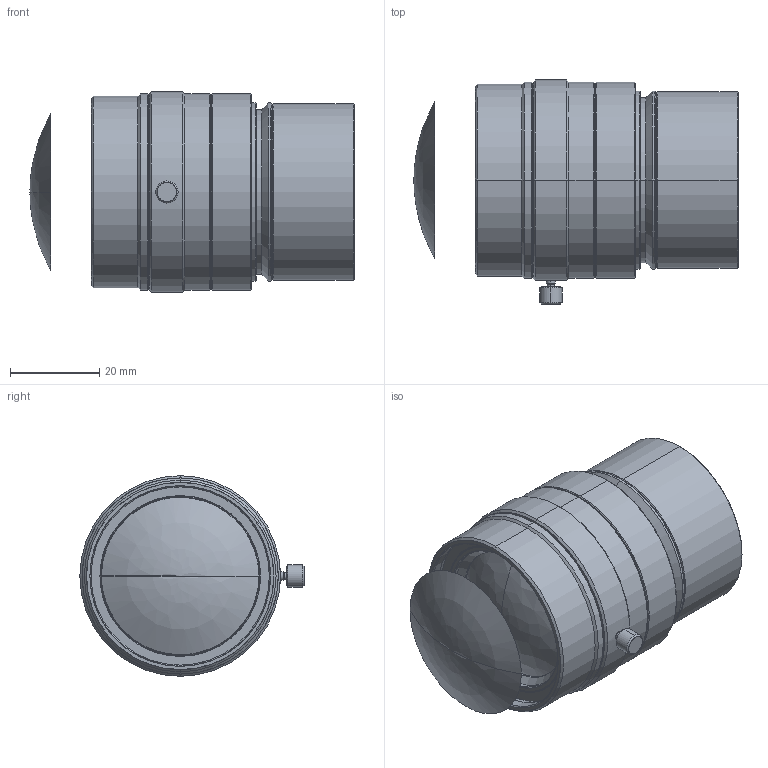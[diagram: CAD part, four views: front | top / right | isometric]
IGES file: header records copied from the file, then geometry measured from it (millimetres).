
Start section: SolidWorks IGES file using analytic representation for surfaces
Bounding box: 72.72 x 50.3 x 45 mm (x, y, z)
Surface area: 13338.8 mm2 (no closed solid volume)
Topology: 0 solids, 0 shells, 115 faces, 2318 edges, 2317 vertices
Faces by surface type: revolution 96, bspline 19
